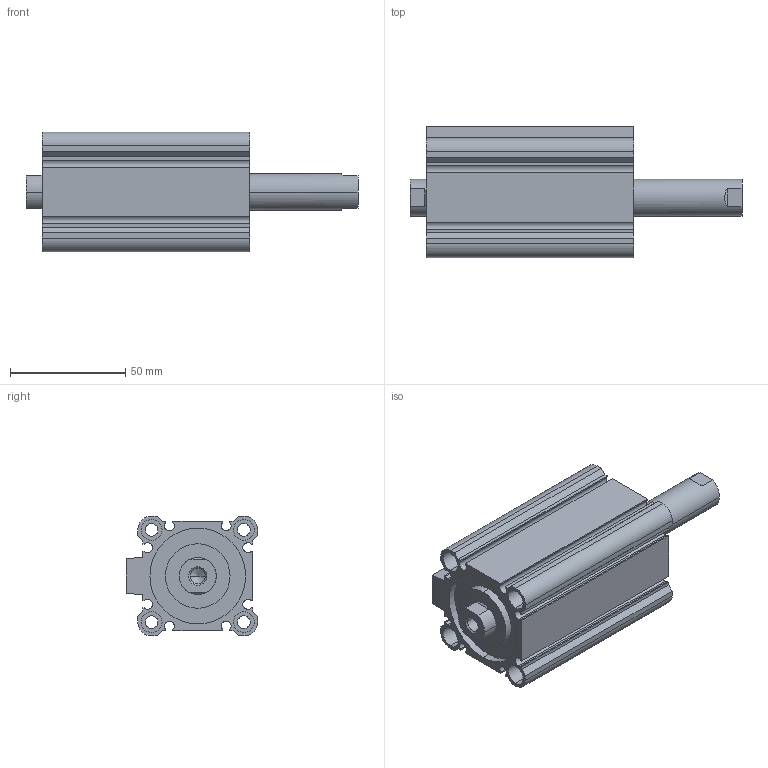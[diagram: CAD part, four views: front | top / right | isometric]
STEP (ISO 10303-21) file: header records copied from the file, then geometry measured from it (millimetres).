
FILE_DESCRIPTION (( 'STEP AP203' ), '1' );
FILE_NAME ('CCMB40-40F-P.STEP', '2020-08-05T11:24:51', ( '' ), ( '' ), 'SwSTEP 2.0', 'SolidWorks 2019', '' );
FILE_SCHEMA (( 'CONFIG_CONTROL_DESIGN' ));
Length unit declared in the file: millimetre
Products named in the file (1): CCMB40-40F-P
Bounding box: 144 x 57 x 52 mm (x, y, z)
Volume: 165253.6 mm3; surface area: 62764.2 mm2
Topology: 2 solids, 2 shells, 164 faces, 414 edges, 270 vertices
Faces by surface type: plane 78, cylinder 74, cone 12
Entity records: 5029 total; most frequent: DIRECTION 896, CARTESIAN_POINT 857, ORIENTED_EDGE 820, EDGE_CURVE 410, AXIS2_PLACEMENT_3D 325, VERTEX_POINT 270, VECTOR 246, LINE 246
